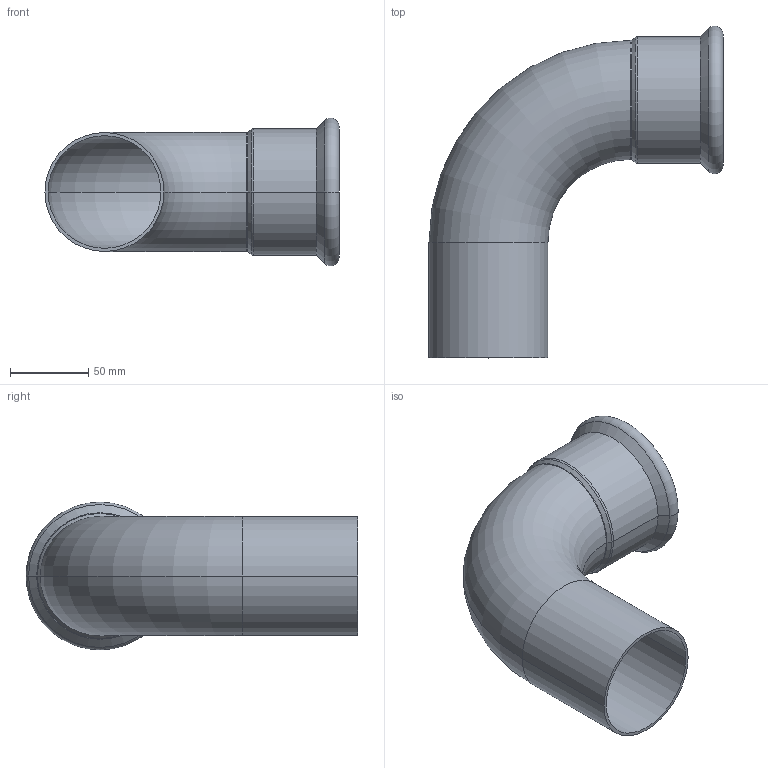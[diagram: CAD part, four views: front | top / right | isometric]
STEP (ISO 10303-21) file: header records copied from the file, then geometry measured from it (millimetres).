
FILE_DESCRIPTION(('OneSpaceDesigner STEP Export'),'2;1');
FILE_NAME('R2711 76x76.stp','2010-06-09T15:13:18',(''),(''),'OneSpace Designer STEP processor for AP214 (Solid Model)','OneSpace Modeling 15.00A 14-Mar-2007 (C) CoCreate Software GmbH','');
FILE_SCHEMA(('AUTOMOTIVE_DESIGN { 1 0 10303 214 1 1 1 1 }'));
Length unit declared in the file: millimetre
Products named in the file (2): R2711_76x76
Assembly tree (1 placements, depth 2):
  R2711_76x76
    R2711_76x76
Bounding box: 188.05 x 212.24 x 94.48 mm (x, y, z)
Volume: 152208.7 mm3; surface area: 138097.2 mm2
Topology: 1 solids, 1 shells, 66 faces, 163 edges, 104 vertices
Faces by surface type: plane 31, cylinder 23, torus 8, cone 4
Entity records: 1736 total; most frequent: ORIENTED_EDGE 326, CARTESIAN_POINT 277, DIRECTION 253, EDGE_CURVE 163, VERTEX_POINT 104, VECTOR 93, LINE 93, AXIS2_PLACEMENT_3D 80
